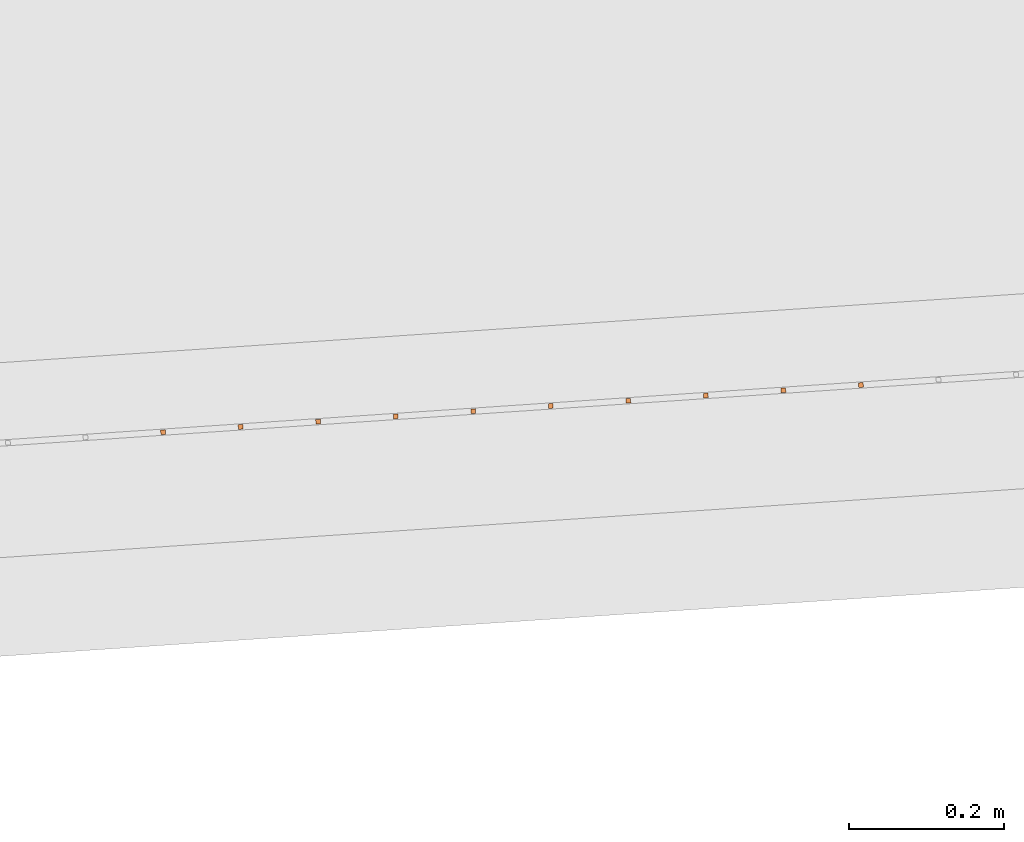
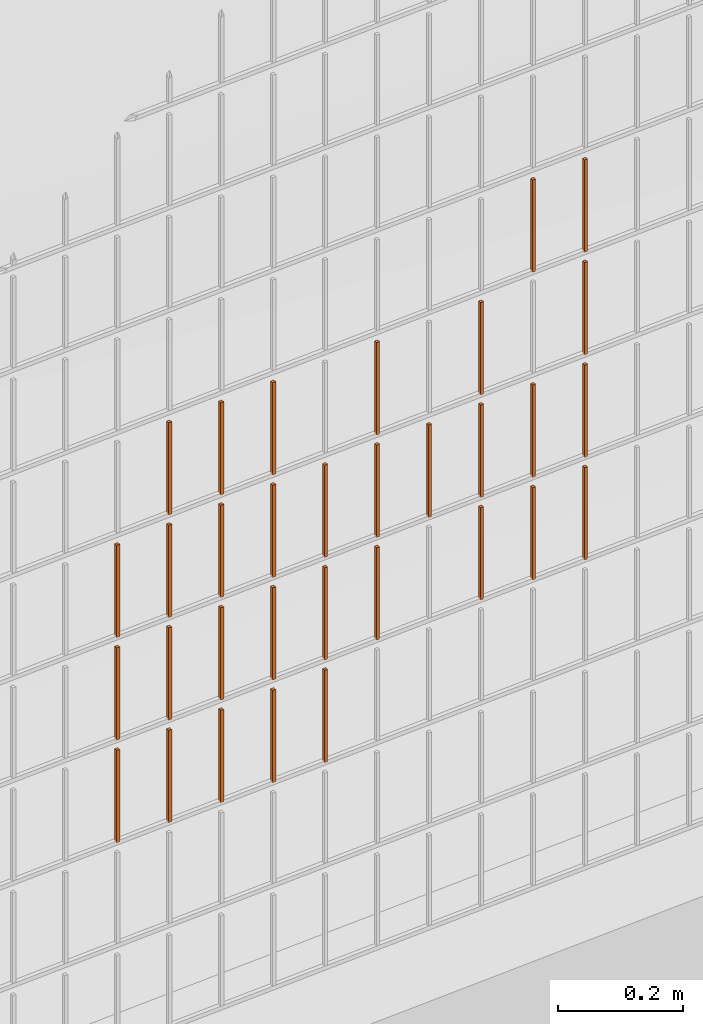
# One storey, part 375 of 1809: 32 proxies, 1 element without a shape of its own.
"""IFC2X3 building model written with IfcOpenShell, lengths in millimetres."""

from ifc_helpers import new_model, entity, si_unit, converted_unit, derived_unit, money_unit, direction, frame, origin_with_axes, place, context, subcontext, project, spatial, faceted_brep, source, transform, mapped, material, type_object, element, aggregate, save


model = new_model("IFC2X3")

# Units and contexts
model_context = context("Model", 3, precision=0.01, world=origin_with_axes(), true_north=direction((0.0, 1.0)))
body_context = subcontext(model_context, "Body", "Model", "MODEL_VIEW")
ifc_project = project(units=[si_unit("LENGTHUNIT", "METRE", prefix="MILLI"), si_unit("AREAUNIT", "SQUARE_METRE"), si_unit("VOLUMEUNIT", "CUBIC_METRE"), converted_unit("PLANEANGLEUNIT", "DEGREE", entity("IfcPlaneAngleMeasure", 0.0174532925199), si_unit("PLANEANGLEUNIT", "RADIAN"), dimensions=[0, 0, 0, 0, 0, 0, 0]), si_unit("SOLIDANGLEUNIT", "STERADIAN"), money_unit("EUR"), converted_unit("TIMEUNIT", "Year", entity("IfcTimeMeasure", 31556926.0), si_unit("TIMEUNIT", "SECOND"), dimensions=[0, 0, 1, 0, 0, 0, 0]), si_unit("MASSUNIT", "GRAM", prefix="KILO"), si_unit("THERMODYNAMICTEMPERATUREUNIT", "DEGREE_CELSIUS"), si_unit("LUMINOUSINTENSITYUNIT", "LUMEN"), si_unit("ENERGYUNIT", "JOULE", prefix="MEGA"), derived_unit("THERMALCONDUCTANCEUNIT", [(si_unit("POWERUNIT", "WATT"), 1), (si_unit("LENGTHUNIT", "METRE"), -1), (si_unit("THERMODYNAMICTEMPERATUREUNIT", "KELVIN"), -1)]), derived_unit("SPECIFICHEATCAPACITYUNIT", [(si_unit("ENERGYUNIT", "JOULE"), 1), (si_unit("MASSUNIT", "GRAM", prefix="KILO"), -1), (si_unit("THERMODYNAMICTEMPERATUREUNIT", "KELVIN"), -1)]), derived_unit("MASSDENSITYUNIT", [(si_unit("MASSUNIT", "GRAM", prefix="KILO"), 1), (si_unit("VOLUMEUNIT", "CUBIC_METRE"), -1)])], contexts=[model_context])

# Site, building, storey
site_placement = place(None, origin_with_axes())
site = spatial("IfcSite", under=ifc_project, at=site_placement, Name="Politse- ja Piirivalveameti ning Päästeameti ühishoone", CompositionType="ELEMENT")
building_placement = place(site_placement, origin_with_axes())
building = spatial("IfcBuilding", under=site, at=building_placement, Name="Politse- ja Piirivalveameti ning Päästeameti ühishoone", CompositionType="ELEMENT")
storey_placement = place(building_placement, origin_with_axes())
storey = spatial("IfcBuildingStorey", under=building, at=storey_placement, Name="Esimene korrus", CompositionType="ELEMENT", Elevation=0.0)

# Proxies
building_element_proxy_type_1 = type_object("IfcBuildingElementProxyType", Name="Railing Type", PredefinedType="NOTDEFINED")
proxy_1_placement = place(storey_placement, frame((89252.001212, -29183.4766571, 203.661247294), z_axis=(0.0, 0.0, 1.0), x_axis=(1.0, 0.0, 0.0)))
proxy_1 = element("IfcBuildingElementProxy", 1, at=proxy_1_placement, inside=storey, type_object=building_element_proxy_type_1, Name="PIIRDEAED")
ifc_material = material(Name="ET-03_Raud")
building_element_proxy_type_2 = type_object("IfcBuildingElementProxyType", Name="IfcBuildingElementProxy", PredefinedType="NOTDEFINED")
shared_shape_1 = source(origin_with_axes(), body_context, "Body", "Brep", [
    faceted_brep([(3.0, 3.0, -0.000752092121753), (-3.0, 3.0, -0.000752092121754), (-3.0, 3.0, 179.99926046), (3.0, 3.0, 179.99926046), (3.0, -3.0, 0.000752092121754), (-3.0, -3.0, 0.000752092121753), (-3.0, -3.0, 180.000764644), (3.0, -3.0, 180.000764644)], [[[0, 1, 2, 3]], [[0, 4, 5, 1]], [[1, 5, 6, 2]], [[3, 2, 6, 7]], [[4, 0, 3, 7]], [[5, 4, 7, 6]]]),
])
proxy_2_placement = place(proxy_1_placement, frame((-18684.1134105, -18559.8161112, 422.539654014), z_axis=(0.0, 0.0, 1.0), x_axis=(1.0, 0.0, 0.0)))
proxy_2 = element("IfcBuildingElementProxy", 2, at=proxy_2_placement, type_object=building_element_proxy_type_2, material=ifc_material, Name="BALUSTER - 001", context=body_context, shape_type="MappedRepresentation", body=[
    mapped(shared_shape_1, transform((0.0, 0.0, 0.0), x_axis=(-0.0673926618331, 0.997726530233, 0.0), y_axis=(-0.997726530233, -0.0673926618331, 0.0), z_axis=(0.0, 0.0, 1.0))),
])
shared_shape_2 = source(origin_with_axes(), body_context, "Body", "Brep", [
    faceted_brep([(3.0, 3.0, -0.000752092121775), (-3.0, 3.0, -0.000752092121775), (-3.0, 3.0, 179.99926046), (3.0, 3.0, 179.99926046), (3.0, -3.0, 0.000752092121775), (-3.0, -3.0, 0.000752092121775), (-3.0, -3.0, 180.000764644), (3.0, -3.0, 180.000764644)], [[[0, 1, 2, 3]], [[0, 4, 5, 1]], [[1, 5, 6, 2]], [[3, 2, 6, 7]], [[4, 0, 3, 7]], [[5, 4, 7, 6]]]),
])
proxy_3_placement = place(proxy_1_placement, frame((-18883.6587166, -18573.2946436, 422.489514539), z_axis=(0.0, 0.0, 1.0), x_axis=(1.0, 0.0, 0.0)))
proxy_3 = element("IfcBuildingElementProxy", 3, at=proxy_3_placement, type_object=building_element_proxy_type_2, material=ifc_material, Name="BALUSTER - 001", context=body_context, shape_type="MappedRepresentation", body=[
    mapped(shared_shape_2, transform((0.0, 0.0, 0.0), x_axis=(-0.0673926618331, 0.997726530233, 0.0), y_axis=(-0.997726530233, -0.0673926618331, 0.0), z_axis=(0.0, 0.0, 1.0))),
])
proxy_4_placement = place(proxy_1_placement, frame((-19083.2040226, -18586.7731759, 422.439375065), z_axis=(0.0, 0.0, 1.0), x_axis=(1.0, 0.0, 0.0)))
proxy_4 = element("IfcBuildingElementProxy", 4, at=proxy_4_placement, type_object=building_element_proxy_type_2, material=ifc_material, Name="BALUSTER - 001", context=body_context, shape_type="MappedRepresentation", body=[
    mapped(shared_shape_2, transform((0.0, 0.0, 0.0), x_axis=(-0.0673926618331, 0.997726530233, 0.0), y_axis=(-0.997726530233, -0.0673926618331, 0.0), z_axis=(0.0, 0.0, 1.0))),
])
shared_shape_3 = source(origin_with_axes(), body_context, "Body", "Brep", [
    faceted_brep([(3.0, 3.0, -0.000752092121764), (-3.0, 3.0, -0.000752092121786), (-3.0, 3.0, 179.99926046), (3.0, 3.0, 179.99926046), (3.0, -3.0, 0.000752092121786), (-3.0, -3.0, 0.000752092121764), (-3.0, -3.0, 180.000764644), (3.0, -3.0, 180.000764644)], [[[0, 1, 2, 3]], [[0, 4, 5, 1]], [[1, 5, 6, 2]], [[3, 2, 6, 7]], [[4, 0, 3, 7]], [[5, 4, 7, 6]]]),
])
proxy_5_placement = place(proxy_1_placement, frame((-18783.8860636, -18566.5553774, 422.514584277), z_axis=(0.0, 0.0, 1.0), x_axis=(1.0, 0.0, 0.0)))
proxy_5 = element("IfcBuildingElementProxy", 5, at=proxy_5_placement, type_object=building_element_proxy_type_2, material=ifc_material, Name="BALUSTER - 001", context=body_context, shape_type="MappedRepresentation", body=[
    mapped(shared_shape_3, transform((0.0, 0.0, 0.0), x_axis=(-0.0673926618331, 0.997726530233, 0.0), y_axis=(-0.997726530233, -0.0673926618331, 0.0), z_axis=(0.0, 0.0, 1.0))),
])
shared_shape_4 = source(origin_with_axes(), body_context, "Body", "Brep", [
    faceted_brep([(3.0, 3.0, -0.000752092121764), (-3.0, 3.0, -0.000752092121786), (-3.0, 3.0, 179.99926046), (3.0, 3.0, 179.99926046), (3.0, -3.0, 0.000752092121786), (-3.0, -3.0, 0.000752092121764), (-3.0, -3.0, 180.000764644), (3.0, -3.0, 180.000764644)], [[[0, 1, 2, 3]], [[0, 4, 5, 1]], [[1, 5, 6, 2]], [[3, 2, 6, 7]], [[4, 0, 3, 7]], [[5, 4, 7, 6]]]),
])
proxy_6_placement = place(proxy_1_placement, frame((-18285.0227984, -18532.8590465, 622.639932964), z_axis=(0.0, 0.0, 1.0), x_axis=(1.0, 0.0, 0.0)))
proxy_6 = element("IfcBuildingElementProxy", 6, at=proxy_6_placement, type_object=building_element_proxy_type_2, material=ifc_material, Name="BALUSTER - 001", context=body_context, shape_type="MappedRepresentation", body=[
    mapped(shared_shape_4, transform((0.0, 0.0, 0.0), x_axis=(-0.0673926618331, 0.997726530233, 0.0), y_axis=(-0.997726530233, -0.0673926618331, 0.0), z_axis=(0.0, 0.0, 1.0))),
])
proxy_7_placement = place(proxy_1_placement, frame((-18783.8860636, -18566.5553774, 622.514584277), z_axis=(0.0, 0.0, 1.0), x_axis=(1.0, 0.0, 0.0)))
proxy_7 = element("IfcBuildingElementProxy", 7, at=proxy_7_placement, type_object=building_element_proxy_type_2, material=ifc_material, Name="BALUSTER - 001", context=body_context, shape_type="MappedRepresentation", body=[
    mapped(shared_shape_4, transform((0.0, 0.0, 0.0), x_axis=(-0.0673926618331, 0.997726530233, 0.0), y_axis=(-0.997726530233, -0.0673926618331, 0.0), z_axis=(0.0, 0.0, 1.0))),
])
shared_shape_5 = source(origin_with_axes(), body_context, "Body", "Brep", [
    faceted_brep([(3.0, 3.0, -0.000752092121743), (-3.0, 3.0, -0.000752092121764), (-3.0, 3.0, 179.99926046), (3.0, 3.0, 179.99926046), (3.0, -3.0, 0.000752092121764), (-3.0, -3.0, 0.000752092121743), (-3.0, -3.0, 180.000764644), (3.0, -3.0, 180.000764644)], [[[0, 1, 2, 3]], [[0, 4, 5, 1]], [[1, 5, 6, 2]], [[3, 2, 6, 7]], [[4, 0, 3, 7]], [[5, 4, 7, 6]]]),
])
proxy_8_placement = place(proxy_1_placement, frame((-18285.0227984, -18532.8590465, 1222.63993296), z_axis=(0.0, 0.0, 1.0), x_axis=(1.0, 0.0, 0.0)))
proxy_8 = element("IfcBuildingElementProxy", 8, at=proxy_8_placement, type_object=building_element_proxy_type_2, material=ifc_material, Name="BALUSTER - 001", context=body_context, shape_type="MappedRepresentation", body=[
    mapped(shared_shape_5, transform((0.0, 0.0, 0.0), x_axis=(-0.0673926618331, 0.997726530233, 0.0), y_axis=(-0.997726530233, -0.0673926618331, 0.0), z_axis=(0.0, 0.0, 1.0))),
])
shared_shape_6 = source(origin_with_axes(), body_context, "Body", "Brep", [
    faceted_brep([(3.0, 3.0, -0.000752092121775), (-3.0, 3.0, -0.000752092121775), (-3.0, 3.0, 179.99926046), (3.0, 3.0, 179.99926046), (3.0, -3.0, 0.000752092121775), (-3.0, -3.0, 0.000752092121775), (-3.0, -3.0, 180.000764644), (3.0, -3.0, 180.000764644)], [[[0, 1, 2, 3]], [[0, 4, 5, 1]], [[1, 5, 6, 2]], [[3, 2, 6, 7]], [[4, 0, 3, 7]], [[5, 4, 7, 6]]]),
])
proxy_9_placement = place(proxy_1_placement, frame((-18883.6587166, -18573.2946436, 622.489514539), z_axis=(0.0, 0.0, 1.0), x_axis=(1.0, 0.0, 0.0)))
proxy_9 = element("IfcBuildingElementProxy", 9, at=proxy_9_placement, type_object=building_element_proxy_type_2, material=ifc_material, Name="BALUSTER - 001", context=body_context, shape_type="MappedRepresentation", body=[
    mapped(shared_shape_6, transform((0.0, 0.0, 0.0), x_axis=(-0.0673926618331, 0.997726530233, 0.0), y_axis=(-0.997726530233, -0.0673926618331, 0.0), z_axis=(0.0, 0.0, 1.0))),
])
proxy_10_placement = place(proxy_1_placement, frame((-19083.2040226, -18586.7731759, 822.439375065), z_axis=(0.0, 0.0, 1.0), x_axis=(1.0, 0.0, 0.0)))
proxy_10 = element("IfcBuildingElementProxy", 10, at=proxy_10_placement, type_object=building_element_proxy_type_2, material=ifc_material, Name="BALUSTER - 001", context=body_context, shape_type="MappedRepresentation", body=[
    mapped(shared_shape_6, transform((0.0, 0.0, 0.0), x_axis=(-0.0673926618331, 0.997726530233, 0.0), y_axis=(-0.997726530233, -0.0673926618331, 0.0), z_axis=(0.0, 0.0, 1.0))),
])
shared_shape_7 = source(origin_with_axes(), body_context, "Body", "Brep", [
    faceted_brep([(3.0, 3.0, -0.000752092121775), (-3.0, 3.0, -0.000752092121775), (-3.0, 3.0, 179.99926046), (3.0, 3.0, 179.99926046), (3.0, -3.0, 0.000752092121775), (-3.0, -3.0, 0.000752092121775), (-3.0, -3.0, 180.000764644), (3.0, -3.0, 180.000764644)], [[[0, 1, 2, 3]], [[0, 4, 5, 1]], [[1, 5, 6, 2]], [[3, 2, 6, 7]], [[4, 0, 3, 7]], [[5, 4, 7, 6]]]),
])
proxy_11_placement = place(proxy_1_placement, frame((-18384.7954515, -18539.5983126, 822.614863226), z_axis=(0.0, 0.0, 1.0), x_axis=(1.0, 0.0, 0.0)))
proxy_11 = element("IfcBuildingElementProxy", 11, at=proxy_11_placement, type_object=building_element_proxy_type_2, material=ifc_material, Name="BALUSTER - 001", context=body_context, shape_type="MappedRepresentation", body=[
    mapped(shared_shape_7, transform((0.0, 0.0, 0.0), x_axis=(-0.0673926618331, 0.997726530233, 0.0), y_axis=(-0.997726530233, -0.0673926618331, 0.0), z_axis=(0.0, 0.0, 1.0))),
])
shared_shape_8 = source(origin_with_axes(), body_context, "Body", "Brep", [
    faceted_brep([(3.0, 3.0, -0.000752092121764), (-3.0, 3.0, -0.000752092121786), (-3.0, 3.0, 179.99926046), (3.0, 3.0, 179.99926046), (3.0, -3.0, 0.000752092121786), (-3.0, -3.0, 0.000752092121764), (-3.0, -3.0, 180.000764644), (3.0, -3.0, 180.000764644)], [[[0, 1, 2, 3]], [[0, 4, 5, 1]], [[1, 5, 6, 2]], [[3, 2, 6, 7]], [[4, 0, 3, 7]], [[5, 4, 7, 6]]]),
])
proxy_12_placement = place(proxy_1_placement, frame((-18285.0227984, -18532.8590465, 822.639932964), z_axis=(0.0, 0.0, 1.0), x_axis=(1.0, 0.0, 0.0)))
proxy_12 = element("IfcBuildingElementProxy", 12, at=proxy_12_placement, type_object=building_element_proxy_type_2, material=ifc_material, Name="BALUSTER - 001", context=body_context, shape_type="MappedRepresentation", body=[
    mapped(shared_shape_8, transform((0.0, 0.0, 0.0), x_axis=(-0.0673926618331, 0.997726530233, 0.0), y_axis=(-0.997726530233, -0.0673926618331, 0.0), z_axis=(0.0, 0.0, 1.0))),
])
shared_shape_9 = source(origin_with_axes(), body_context, "Body", "Brep", [
    faceted_brep([(3.0, 3.0, -0.000752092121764), (-3.0, 3.0, -0.000752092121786), (-3.0, 3.0, 179.99926046), (3.0, 3.0, 179.99926046), (3.0, -3.0, 0.000752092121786), (-3.0, -3.0, 0.000752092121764), (-3.0, -3.0, 180.000764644), (3.0, -3.0, 180.000764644)], [[[0, 1, 2, 3]], [[0, 4, 5, 1]], [[1, 5, 6, 2]], [[3, 2, 6, 7]], [[4, 0, 3, 7]], [[5, 4, 7, 6]]]),
])
proxy_13_placement = place(proxy_1_placement, frame((-18185.2501454, -18526.1197803, 822.665002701), z_axis=(0.0, 0.0, 1.0), x_axis=(1.0, 0.0, 0.0)))
proxy_13 = element("IfcBuildingElementProxy", 13, at=proxy_13_placement, type_object=building_element_proxy_type_2, material=ifc_material, Name="BALUSTER - 001", context=body_context, shape_type="MappedRepresentation", body=[
    mapped(shared_shape_9, transform((0.0, 0.0, 0.0), x_axis=(-0.0673926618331, 0.997726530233, 0.0), y_axis=(-0.997726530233, -0.0673926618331, 0.0), z_axis=(0.0, 0.0, 1.0))),
])
shared_shape_10 = source(origin_with_axes(), body_context, "Body", "Brep", [
    faceted_brep([(3.0, 3.0, -0.000752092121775), (-3.0, 3.0, -0.000752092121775), (-3.0, 3.0, 179.99926046), (3.0, 3.0, 179.99926046), (3.0, -3.0, 0.000752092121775), (-3.0, -3.0, 0.000752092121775), (-3.0, -3.0, 180.000764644), (3.0, -3.0, 180.000764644)], [[[0, 1, 2, 3]], [[0, 4, 5, 1]], [[1, 5, 6, 2]], [[3, 2, 6, 7]], [[4, 0, 3, 7]], [[5, 4, 7, 6]]]),
])
proxy_14_placement = place(proxy_1_placement, frame((-18883.6587166, -18573.2946436, 822.489514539), z_axis=(0.0, 0.0, 1.0), x_axis=(1.0, 0.0, 0.0)))
proxy_14 = element("IfcBuildingElementProxy", 14, at=proxy_14_placement, type_object=building_element_proxy_type_2, material=ifc_material, Name="BALUSTER - 001", context=body_context, shape_type="MappedRepresentation", body=[
    mapped(shared_shape_10, transform((0.0, 0.0, 0.0), x_axis=(-0.0673926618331, 0.997726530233, 0.0), y_axis=(-0.997726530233, -0.0673926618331, 0.0), z_axis=(0.0, 0.0, 1.0))),
])
shared_shape_11 = source(origin_with_axes(), body_context, "Body", "Brep", [
    faceted_brep([(3.0, 3.0, -0.000752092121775), (-3.0, 3.0, -0.000752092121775), (-3.0, 3.0, 179.99926046), (3.0, 3.0, 179.99926046), (3.0, -3.0, 0.000752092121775), (-3.0, -3.0, 0.000752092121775), (-3.0, -3.0, 180.000764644), (3.0, -3.0, 180.000764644)], [[[0, 1, 2, 3]], [[0, 4, 5, 1]], [[1, 5, 6, 2]], [[3, 2, 6, 7]], [[4, 0, 3, 7]], [[5, 4, 7, 6]]]),
])
proxy_15_placement = place(proxy_1_placement, frame((-19083.2040226, -18586.7731759, 622.439375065), z_axis=(0.0, 0.0, 1.0), x_axis=(1.0, 0.0, 0.0)))
proxy_15 = element("IfcBuildingElementProxy", 15, at=proxy_15_placement, type_object=building_element_proxy_type_2, material=ifc_material, Name="BALUSTER - 001", context=body_context, shape_type="MappedRepresentation", body=[
    mapped(shared_shape_11, transform((0.0, 0.0, 0.0), x_axis=(-0.0673926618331, 0.997726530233, 0.0), y_axis=(-0.997726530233, -0.0673926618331, 0.0), z_axis=(0.0, 0.0, 1.0))),
])
shared_shape_12 = source(origin_with_axes(), body_context, "Body", "Brep", [
    faceted_brep([(3.0, 3.0, -0.000752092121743), (-3.0, 3.0, -0.000752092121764), (-3.0, 3.0, 179.99926046), (3.0, 3.0, 179.99926046), (3.0, -3.0, 0.000752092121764), (-3.0, -3.0, 0.000752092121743), (-3.0, -3.0, 180.000764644), (3.0, -3.0, 180.000764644)], [[[0, 1, 2, 3]], [[0, 4, 5, 1]], [[1, 5, 6, 2]], [[3, 2, 6, 7]], [[4, 0, 3, 7]], [[5, 4, 7, 6]]]),
])
proxy_16_placement = place(proxy_1_placement, frame((-18584.3407575, -18553.076845, 822.564723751), z_axis=(0.0, 0.0, 1.0), x_axis=(1.0, 0.0, 0.0)))
proxy_16 = element("IfcBuildingElementProxy", 16, at=proxy_16_placement, type_object=building_element_proxy_type_2, material=ifc_material, Name="BALUSTER - 001", context=body_context, shape_type="MappedRepresentation", body=[
    mapped(shared_shape_12, transform((0.0, 0.0, 0.0), x_axis=(-0.0673926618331, 0.997726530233, 0.0), y_axis=(-0.997726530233, -0.0673926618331, 0.0), z_axis=(0.0, 0.0, 1.0))),
])
shared_shape_13 = source(origin_with_axes(), body_context, "Body", "Brep", [
    faceted_brep([(3.0, 3.0, -0.000752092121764), (-3.0, 3.0, -0.000752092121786), (-3.0, 3.0, 179.99926046), (3.0, 3.0, 179.99926046), (3.0, -3.0, 0.000752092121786), (-3.0, -3.0, 0.000752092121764), (-3.0, -3.0, 180.000764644), (3.0, -3.0, 180.000764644)], [[[0, 1, 2, 3]], [[0, 4, 5, 1]], [[1, 5, 6, 2]], [[3, 2, 6, 7]], [[4, 0, 3, 7]], [[5, 4, 7, 6]]]),
])
proxy_17_placement = place(proxy_1_placement, frame((-18783.8860636, -18566.5553774, 822.514584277), z_axis=(0.0, 0.0, 1.0), x_axis=(1.0, 0.0, 0.0)))
proxy_17 = element("IfcBuildingElementProxy", 17, at=proxy_17_placement, type_object=building_element_proxy_type_2, material=ifc_material, Name="BALUSTER - 001", context=body_context, shape_type="MappedRepresentation", body=[
    mapped(shared_shape_13, transform((0.0, 0.0, 0.0), x_axis=(-0.0673926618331, 0.997726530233, 0.0), y_axis=(-0.997726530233, -0.0673926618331, 0.0), z_axis=(0.0, 0.0, 1.0))),
])
shared_shape_14 = source(origin_with_axes(), body_context, "Body", "Brep", [
    faceted_brep([(3.0, 3.0, -0.000752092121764), (-3.0, 3.0, -0.000752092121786), (-3.0, 3.0, 179.99926046), (3.0, 3.0, 179.99926046), (3.0, -3.0, 0.000752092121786), (-3.0, -3.0, 0.000752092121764), (-3.0, -3.0, 180.000764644), (3.0, -3.0, 180.000764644)], [[[0, 1, 2, 3]], [[0, 4, 5, 1]], [[1, 5, 6, 2]], [[3, 2, 6, 7]], [[4, 0, 3, 7]], [[5, 4, 7, 6]]]),
])
proxy_18_placement = place(proxy_1_placement, frame((-18185.2501454, -18526.1197803, 622.665002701), z_axis=(0.0, 0.0, 1.0), x_axis=(1.0, 0.0, 0.0)))
proxy_18 = element("IfcBuildingElementProxy", 18, at=proxy_18_placement, type_object=building_element_proxy_type_2, material=ifc_material, Name="BALUSTER - 001", context=body_context, shape_type="MappedRepresentation", body=[
    mapped(shared_shape_14, transform((0.0, 0.0, 0.0), x_axis=(-0.0673926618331, 0.997726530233, 0.0), y_axis=(-0.997726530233, -0.0673926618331, 0.0), z_axis=(0.0, 0.0, 1.0))),
])
shared_shape_15 = source(origin_with_axes(), body_context, "Body", "Brep", [
    faceted_brep([(3.0, 3.0, -0.000752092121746), (-3.0, 3.0, -0.000752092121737), (-3.00000000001, 2.99999999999, 179.99926046), (2.99999999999, 2.99999999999, 179.99926046), (3.0, -3.0, 0.000752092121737), (-3.0, -3.0, 0.000752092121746), (-3.00000000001, -3.00000000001, 180.000764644), (2.99999999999, -3.00000000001, 180.000764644)], [[[0, 1, 2, 3]], [[0, 4, 5, 1]], [[1, 5, 6, 2]], [[3, 2, 6, 7]], [[4, 0, 3, 7]], [[5, 4, 7, 6]]]),
])
proxy_19_placement = place(proxy_1_placement, frame((-18584.3407575, -18553.076845, 1022.56472375), z_axis=(0.0, 0.0, 1.0), x_axis=(1.0, 0.0, 0.0)))
proxy_19 = element("IfcBuildingElementProxy", 19, at=proxy_19_placement, type_object=building_element_proxy_type_2, material=ifc_material, Name="BALUSTER - 001", context=body_context, shape_type="MappedRepresentation", body=[
    mapped(shared_shape_15, transform((0.0, 0.0, 0.0), x_axis=(-0.0673926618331, 0.997726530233, 0.0), y_axis=(-0.997726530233, -0.0673926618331, 0.0), z_axis=(0.0, 0.0, 1.0))),
])
proxy_20_placement = place(proxy_1_placement, frame((-18883.6587166, -18573.2946436, 1022.48951454), z_axis=(0.0, 0.0, 1.0), x_axis=(1.0, 0.0, 0.0)))
proxy_20 = element("IfcBuildingElementProxy", 20, at=proxy_20_placement, type_object=building_element_proxy_type_2, material=ifc_material, Name="BALUSTER - 001", context=body_context, shape_type="MappedRepresentation", body=[
    mapped(shared_shape_15, transform((0.0, 0.0, 0.0), x_axis=(-0.0673926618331, 0.997726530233, 0.0), y_axis=(-0.997726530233, -0.0673926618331, 0.0), z_axis=(0.0, 0.0, 1.0))),
])
shared_shape_16 = source(origin_with_axes(), body_context, "Body", "Brep", [
    faceted_brep([(3.0, 3.0, -0.000752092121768), (-3.0, 3.0, -0.000752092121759), (-3.00000000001, 2.99999999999, 179.99926046), (2.99999999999, 2.99999999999, 179.99926046), (3.0, -3.0, 0.000752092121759), (-3.0, -3.0, 0.000752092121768), (-3.00000000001, -3.00000000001, 180.000764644), (2.99999999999, -3.00000000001, 180.000764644)], [[[0, 1, 2, 3]], [[0, 4, 5, 1]], [[1, 5, 6, 2]], [[3, 2, 6, 7]], [[4, 0, 3, 7]], [[5, 4, 7, 6]]]),
])
proxy_21_placement = place(proxy_1_placement, frame((-18384.7954515, -18539.5983126, 1022.61486323), z_axis=(0.0, 0.0, 1.0), x_axis=(1.0, 0.0, 0.0)))
proxy_21 = element("IfcBuildingElementProxy", 21, at=proxy_21_placement, type_object=building_element_proxy_type_2, material=ifc_material, Name="BALUSTER - 001", context=body_context, shape_type="MappedRepresentation", body=[
    mapped(shared_shape_16, transform((0.0, 0.0, 0.0), x_axis=(-0.0673926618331, 0.997726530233, 0.0), y_axis=(-0.997726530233, -0.0673926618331, 0.0), z_axis=(0.0, 0.0, 1.0))),
])
shared_shape_17 = source(origin_with_axes(), body_context, "Body", "Brep", [
    faceted_brep([(3.0, 3.0, -0.000752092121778), (-3.0, 3.0, -0.000752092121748), (-3.00000000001, 2.99999999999, 179.99926046), (2.99999999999, 2.99999999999, 179.99926046), (3.0, -3.0, 0.000752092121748), (-3.0, -3.0, 0.000752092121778), (-3.00000000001, -3.00000000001, 180.000764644), (2.99999999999, -3.00000000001, 180.000764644)], [[[0, 1, 2, 3]], [[0, 4, 5, 1]], [[1, 5, 6, 2]], [[3, 2, 6, 7]], [[4, 0, 3, 7]], [[5, 4, 7, 6]]]),
])
proxy_22_placement = place(proxy_1_placement, frame((-18983.4313696, -18580.0339097, 1022.4644448), z_axis=(0.0, 0.0, 1.0), x_axis=(1.0, 0.0, 0.0)))
proxy_22 = element("IfcBuildingElementProxy", 22, at=proxy_22_placement, type_object=building_element_proxy_type_2, material=ifc_material, Name="BALUSTER - 001", context=body_context, shape_type="MappedRepresentation", body=[
    mapped(shared_shape_17, transform((0.0, 0.0, 0.0), x_axis=(-0.0673926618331, 0.997726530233, 0.0), y_axis=(-0.997726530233, -0.0673926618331, 0.0), z_axis=(0.0, 0.0, 1.0))),
])
shared_shape_18 = source(origin_with_axes(), body_context, "Body", "Brep", [
    faceted_brep([(3.0, 3.0, -0.000752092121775), (-3.0, 3.0, -0.000752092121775), (-3.0, 3.0, 179.99926046), (3.0, 3.0, 179.99926046), (3.0, -3.0, 0.000752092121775), (-3.0, -3.0, 0.000752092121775), (-3.0, -3.0, 180.000764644), (3.0, -3.0, 180.000764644)], [[[0, 1, 2, 3]], [[0, 4, 5, 1]], [[1, 5, 6, 2]], [[3, 2, 6, 7]], [[4, 0, 3, 7]], [[5, 4, 7, 6]]]),
])
proxy_23_placement = place(proxy_1_placement, frame((-18384.7954515, -18539.5983126, 622.614863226), z_axis=(0.0, 0.0, 1.0), x_axis=(1.0, 0.0, 0.0)))
proxy_23 = element("IfcBuildingElementProxy", 23, at=proxy_23_placement, type_object=building_element_proxy_type_2, material=ifc_material, Name="BALUSTER - 001", context=body_context, shape_type="MappedRepresentation", body=[
    mapped(shared_shape_18, transform((0.0, 0.0, 0.0), x_axis=(-0.0673926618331, 0.997726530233, 0.0), y_axis=(-0.997726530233, -0.0673926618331, 0.0), z_axis=(0.0, 0.0, 1.0))),
])
shared_shape_19 = source(origin_with_axes(), body_context, "Body", "Brep", [
    faceted_brep([(3.0, 3.0, -0.000752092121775), (-3.0, 3.0, -0.000752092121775), (-3.0, 3.0, 179.99926046), (3.0, 3.0, 179.99926046), (3.0, -3.0, 0.000752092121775), (-3.0, -3.0, 0.000752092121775), (-3.0, -3.0, 180.000764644), (3.0, -3.0, 180.000764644)], [[[0, 1, 2, 3]], [[0, 4, 5, 1]], [[1, 5, 6, 2]], [[3, 2, 6, 7]], [[4, 0, 3, 7]], [[5, 4, 7, 6]]]),
])
proxy_24_placement = place(proxy_1_placement, frame((-18983.4313696, -18580.0339097, 822.464444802), z_axis=(0.0, 0.0, 1.0), x_axis=(1.0, 0.0, 0.0)))
proxy_24 = element("IfcBuildingElementProxy", 24, at=proxy_24_placement, type_object=building_element_proxy_type_2, material=ifc_material, Name="BALUSTER - 001", context=body_context, shape_type="MappedRepresentation", body=[
    mapped(shared_shape_19, transform((0.0, 0.0, 0.0), x_axis=(-0.0673926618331, 0.997726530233, 0.0), y_axis=(-0.997726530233, -0.0673926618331, 0.0), z_axis=(0.0, 0.0, 1.0))),
])
shared_shape_20 = source(origin_with_axes(), body_context, "Body", "Brep", [
    faceted_brep([(3.0, 3.0, -0.000752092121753), (-3.0, 3.0, -0.000752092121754), (-3.0, 3.0, 179.99926046), (3.0, 3.0, 179.99926046), (3.0, -3.0, 0.000752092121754), (-3.0, -3.0, 0.000752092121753), (-3.0, -3.0, 180.000764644), (3.0, -3.0, 180.000764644)], [[[0, 1, 2, 3]], [[0, 4, 5, 1]], [[1, 5, 6, 2]], [[3, 2, 6, 7]], [[4, 0, 3, 7]], [[5, 4, 7, 6]]]),
])
proxy_25_placement = place(proxy_1_placement, frame((-18684.1134105, -18559.8161112, 622.539654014), z_axis=(0.0, 0.0, 1.0), x_axis=(1.0, 0.0, 0.0)))
proxy_25 = element("IfcBuildingElementProxy", 25, at=proxy_25_placement, type_object=building_element_proxy_type_2, material=ifc_material, Name="BALUSTER - 001", context=body_context, shape_type="MappedRepresentation", body=[
    mapped(shared_shape_20, transform((0.0, 0.0, 0.0), x_axis=(-0.0673926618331, 0.997726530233, 0.0), y_axis=(-0.997726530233, -0.0673926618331, 0.0), z_axis=(0.0, 0.0, 1.0))),
])
shared_shape_21 = source(origin_with_axes(), body_context, "Body", "Brep", [
    faceted_brep([(3.0, 3.0, -0.000752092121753), (-3.0, 3.0, -0.000752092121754), (-3.0, 3.0, 179.99926046), (3.0, 3.0, 179.99926046), (3.0, -3.0, 0.000752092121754), (-3.0, -3.0, 0.000752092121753), (-3.0, -3.0, 180.000764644), (3.0, -3.0, 180.000764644)], [[[0, 1, 2, 3]], [[0, 4, 5, 1]], [[1, 5, 6, 2]], [[3, 2, 6, 7]], [[4, 0, 3, 7]], [[5, 4, 7, 6]]]),
])
proxy_26_placement = place(proxy_1_placement, frame((-18684.1134105, -18559.8161112, 822.539654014), z_axis=(0.0, 0.0, 1.0), x_axis=(1.0, 0.0, 0.0)))
proxy_26 = element("IfcBuildingElementProxy", 26, at=proxy_26_placement, type_object=building_element_proxy_type_2, material=ifc_material, Name="BALUSTER - 001", context=body_context, shape_type="MappedRepresentation", body=[
    mapped(shared_shape_21, transform((0.0, 0.0, 0.0), x_axis=(-0.0673926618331, 0.997726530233, 0.0), y_axis=(-0.997726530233, -0.0673926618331, 0.0), z_axis=(0.0, 0.0, 1.0))),
])
shared_shape_22 = source(origin_with_axes(), body_context, "Body", "Brep", [
    faceted_brep([(3.0, 3.0, -0.000752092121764), (-3.0, 3.0, -0.000752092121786), (-3.0, 3.0, 179.99926046), (3.0, 3.0, 179.99926046), (3.0, -3.0, 0.000752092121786), (-3.0, -3.0, 0.000752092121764), (-3.0, -3.0, 180.000764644), (3.0, -3.0, 180.000764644)], [[[0, 1, 2, 3]], [[0, 4, 5, 1]], [[1, 5, 6, 2]], [[3, 2, 6, 7]], [[4, 0, 3, 7]], [[5, 4, 7, 6]]]),
])
proxy_27_placement = place(proxy_1_placement, frame((-18185.2501454, -18526.1197803, 1222.6650027), z_axis=(0.0, 0.0, 1.0), x_axis=(1.0, 0.0, 0.0)))
proxy_27 = element("IfcBuildingElementProxy", 27, at=proxy_27_placement, type_object=building_element_proxy_type_2, material=ifc_material, Name="BALUSTER - 001", context=body_context, shape_type="MappedRepresentation", body=[
    mapped(shared_shape_22, transform((0.0, 0.0, 0.0), x_axis=(-0.0673926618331, 0.997726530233, 0.0), y_axis=(-0.997726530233, -0.0673926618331, 0.0), z_axis=(0.0, 0.0, 1.0))),
])
shared_shape_23 = source(origin_with_axes(), body_context, "Body", "Brep", [
    faceted_brep([(3.0, 3.0, -0.000752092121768), (-3.0, 3.0, -0.000752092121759), (-3.00000000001, 2.99999999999, 179.99926046), (2.99999999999, 2.99999999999, 179.99926046), (3.0, -3.0, 0.000752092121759), (-3.0, -3.0, 0.000752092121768), (-3.00000000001, -3.00000000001, 180.000764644), (2.99999999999, -3.00000000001, 180.000764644)], [[[0, 1, 2, 3]], [[0, 4, 5, 1]], [[1, 5, 6, 2]], [[3, 2, 6, 7]], [[4, 0, 3, 7]], [[5, 4, 7, 6]]]),
])
proxy_28_placement = place(proxy_1_placement, frame((-18783.8860636, -18566.5553774, 1022.51458428), z_axis=(0.0, 0.0, 1.0), x_axis=(1.0, 0.0, 0.0)))
proxy_28 = element("IfcBuildingElementProxy", 28, at=proxy_28_placement, type_object=building_element_proxy_type_2, material=ifc_material, Name="BALUSTER - 001", context=body_context, shape_type="MappedRepresentation", body=[
    mapped(shared_shape_23, transform((0.0, 0.0, 0.0), x_axis=(-0.0673926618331, 0.997726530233, 0.0), y_axis=(-0.997726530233, -0.0673926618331, 0.0), z_axis=(0.0, 0.0, 1.0))),
])
shared_shape_24 = source(origin_with_axes(), body_context, "Body", "Brep", [
    faceted_brep([(3.0, 3.0, -0.000752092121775), (-3.0, 3.0, -0.000752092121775), (-3.0, 3.0, 179.99926046), (3.0, 3.0, 179.99926046), (3.0, -3.0, 0.000752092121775), (-3.0, -3.0, 0.000752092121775), (-3.0, -3.0, 180.000764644), (3.0, -3.0, 180.000764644)], [[[0, 1, 2, 3]], [[0, 4, 5, 1]], [[1, 5, 6, 2]], [[3, 2, 6, 7]], [[4, 0, 3, 7]], [[5, 4, 7, 6]]]),
])
proxy_29_placement = place(proxy_1_placement, frame((-18983.4313696, -18580.0339097, 422.464444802), z_axis=(0.0, 0.0, 1.0), x_axis=(1.0, 0.0, 0.0)))
proxy_29 = element("IfcBuildingElementProxy", 29, at=proxy_29_placement, type_object=building_element_proxy_type_2, material=ifc_material, Name="BALUSTER - 001", context=body_context, shape_type="MappedRepresentation", body=[
    mapped(shared_shape_24, transform((0.0, 0.0, 0.0), x_axis=(-0.0673926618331, 0.997726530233, 0.0), y_axis=(-0.997726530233, -0.0673926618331, 0.0), z_axis=(0.0, 0.0, 1.0))),
])
shared_shape_25 = source(origin_with_axes(), body_context, "Body", "Brep", [
    faceted_brep([(3.0, 3.0, -0.000752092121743), (-3.0, 3.0, -0.000752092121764), (-3.0, 3.0, 179.99926046), (3.0, 3.0, 179.99926046), (3.0, -3.0, 0.000752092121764), (-3.0, -3.0, 0.000752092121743), (-3.0, -3.0, 180.000764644), (3.0, -3.0, 180.000764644)], [[[0, 1, 2, 3]], [[0, 4, 5, 1]], [[1, 5, 6, 2]], [[3, 2, 6, 7]], [[4, 0, 3, 7]], [[5, 4, 7, 6]]]),
])
proxy_30_placement = place(proxy_1_placement, frame((-18584.3407575, -18553.076845, 622.564723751), z_axis=(0.0, 0.0, 1.0), x_axis=(1.0, 0.0, 0.0)))
proxy_30 = element("IfcBuildingElementProxy", 30, at=proxy_30_placement, type_object=building_element_proxy_type_2, material=ifc_material, Name="BALUSTER - 001", context=body_context, shape_type="MappedRepresentation", body=[
    mapped(shared_shape_25, transform((0.0, 0.0, 0.0), x_axis=(-0.0673926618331, 0.997726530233, 0.0), y_axis=(-0.997726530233, -0.0673926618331, 0.0), z_axis=(0.0, 0.0, 1.0))),
])
shared_shape_26 = source(origin_with_axes(), body_context, "Body", "Brep", [
    faceted_brep([(3.0, 3.0, -0.000752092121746), (-3.0, 3.0, -0.000752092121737), (-3.00000000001, 2.99999999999, 179.99926046), (2.99999999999, 2.99999999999, 179.99926046), (3.0, -3.0, 0.000752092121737), (-3.0, -3.0, 0.000752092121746), (-3.00000000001, -3.00000000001, 180.000764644), (2.99999999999, -3.00000000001, 180.000764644)], [[[0, 1, 2, 3]], [[0, 4, 5, 1]], [[1, 5, 6, 2]], [[3, 2, 6, 7]], [[4, 0, 3, 7]], [[5, 4, 7, 6]]]),
])
proxy_31_placement = place(proxy_1_placement, frame((-18185.2501454, -18526.1197803, 1022.6650027), z_axis=(0.0, 0.0, 1.0), x_axis=(1.0, 0.0, 0.0)))
proxy_31 = element("IfcBuildingElementProxy", 31, at=proxy_31_placement, type_object=building_element_proxy_type_2, material=ifc_material, Name="BALUSTER - 001", context=body_context, shape_type="MappedRepresentation", body=[
    mapped(shared_shape_26, transform((0.0, 0.0, 0.0), x_axis=(-0.0673926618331, 0.997726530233, 0.0), y_axis=(-0.997726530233, -0.0673926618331, 0.0), z_axis=(0.0, 0.0, 1.0))),
])
shared_shape_27 = source(origin_with_axes(), body_context, "Body", "Brep", [
    faceted_brep([(3.0, 3.0, -0.000752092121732), (-3.0, 3.0, -0.000752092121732), (-3.0, 3.0, 179.99926046), (3.0, 3.0, 179.99926046), (3.0, -3.0, 0.000752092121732), (-3.0, -3.0, 0.000752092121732), (-3.0, -3.0, 180.000764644), (3.0, -3.0, 180.000764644)], [[[0, 1, 2, 3]], [[0, 4, 5, 1]], [[1, 5, 6, 2]], [[3, 2, 6, 7]], [[4, 0, 3, 7]], [[5, 4, 7, 6]]]),
])
proxy_32_placement = place(proxy_1_placement, frame((-18484.5681045, -18546.3375788, 822.589793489), z_axis=(0.0, 0.0, 1.0), x_axis=(1.0, 0.0, 0.0)))
proxy_32 = element("IfcBuildingElementProxy", 32, at=proxy_32_placement, type_object=building_element_proxy_type_2, material=ifc_material, Name="BALUSTER - 001", context=body_context, shape_type="MappedRepresentation", body=[
    mapped(shared_shape_27, transform((0.0, 0.0, 0.0), x_axis=(-0.0673926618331, 0.997726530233, 0.0), y_axis=(-0.997726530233, -0.0673926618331, 0.0), z_axis=(0.0, 0.0, 1.0))),
])
shared_shape_28 = source(origin_with_axes(), body_context, "Body", "Brep", [
    faceted_brep([(3.0, 3.0, -0.000752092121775), (-3.0, 3.0, -0.000752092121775), (-3.0, 3.0, 179.99926046), (3.0, 3.0, 179.99926046), (3.0, -3.0, 0.000752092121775), (-3.0, -3.0, 0.000752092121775), (-3.0, -3.0, 180.000764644), (3.0, -3.0, 180.000764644)], [[[0, 1, 2, 3]], [[0, 4, 5, 1]], [[1, 5, 6, 2]], [[3, 2, 6, 7]], [[4, 0, 3, 7]], [[5, 4, 7, 6]]]),
])
proxy_33_placement = place(proxy_1_placement, frame((-18983.4313696, -18580.0339097, 622.464444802), z_axis=(0.0, 0.0, 1.0), x_axis=(1.0, 0.0, 0.0)))
proxy_33 = element("IfcBuildingElementProxy", 33, at=proxy_33_placement, type_object=building_element_proxy_type_2, material=ifc_material, Name="BALUSTER - 001", context=body_context, shape_type="MappedRepresentation", body=[
    mapped(shared_shape_28, transform((0.0, 0.0, 0.0), x_axis=(-0.0673926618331, 0.997726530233, 0.0), y_axis=(-0.997726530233, -0.0673926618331, 0.0), z_axis=(0.0, 0.0, 1.0))),
])
aggregate(proxy_1, [proxy_2, proxy_5, proxy_3, proxy_29, proxy_4, proxy_18, proxy_6, proxy_23, proxy_30, proxy_25, proxy_7, proxy_9, proxy_33, proxy_15, proxy_13, proxy_12, proxy_11, proxy_32, proxy_16, proxy_26, proxy_17, proxy_14, proxy_24, proxy_10, proxy_31, proxy_21, proxy_19, proxy_28, proxy_20, proxy_22, proxy_27, proxy_8])

save(model, "model.ifc")
